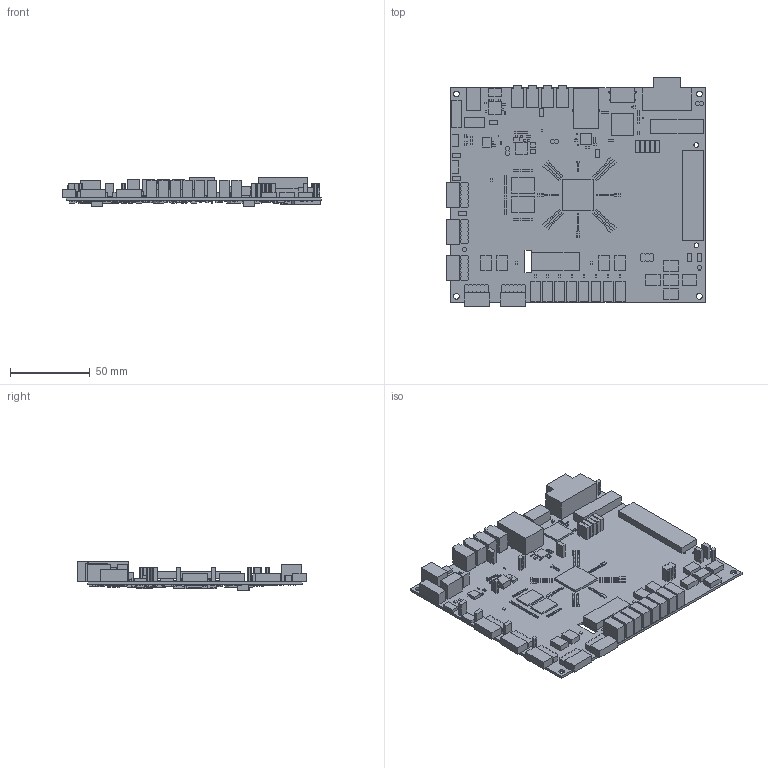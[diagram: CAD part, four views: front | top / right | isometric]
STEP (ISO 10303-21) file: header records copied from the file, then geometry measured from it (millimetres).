
FILE_DESCRIPTION(('Open CASCADE Model'),'2;1');
FILE_NAME('Open CASCADE Shape Model','2012-08-27T11:01:50',('Author'),( 'Open CASCADE'),'Open CASCADE STEP processor 6.2','Open CASCADE 6.2' ,'Unknown');
FILE_SCHEMA(('AUTOMOTIVE_DESIGN { 1 0 10303 214 1 1 1 1 }'));
Length unit declared in the file: millimetre
Products named in the file (1024): PCB; Board; C411; 373150400; Extruded; C410; C409; C408; 373150272; JP3; 373151168; R274; 373151424; D26; 373154752; R99; Q1; 373151808; D18; 373157312; C394; 373154496; C393; IC13; 373161920; R170; 373150784; R137; R108; R107; R93; R95; R85; R84; FB8; 373150656; D20; 373153216; D12; 373155648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
Assembly tree (1807 placements, depth 4):
  PCB
    Board
    C411
      373150400
        Extruded
    C410
      373150400
        Extruded
    C409
      373150400
        Extruded
    C408
      373150272
        Extruded
    JP3
      373151168
        Extruded
    R274
      373151424
        Extruded
    D26
      373154752
        Extruded
    R99
      373151424
        Extruded
    Q1
      373151808
        Extruded
    D18
      373157312
        Extruded
    C394
      373154496
        Extruded
    C393
      373154496
        Extruded
    IC13
      373161920
        Extruded
    R170
      373150784
        Extruded
    R137
      373151424
        Extruded
    R108
      373151424
        Extruded
    R107
      373150784
        Extruded
    R93
      373150784
        Extruded
    R95
      373150784
        Extruded
    R85
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Bounding box: 162.4 x 143.29 x 18.61 mm (x, y, z)
Volume: 83573 mm3; surface area: 84692.7 mm2
Topology: 866 solids, 866 shells, 5765 faces, 12099 edges, 8066 vertices
Faces by surface type: plane 5478, cylinder 287
Full cylindrical faces by diameter (mm): 0.889 x14, 0.89 x10, 1 x8, 1.02 x4, 1.067 x200, 1.27 x2, 1.3 x4, 1.6 x2, 1.8 x3, 3.048 x2, 3.175 x2, 3.25 x2, 3.658 x4
Entity records: 85756 total; most frequent: CARTESIAN_POINT 14644, DIRECTION 12403, LINE 5773, VECTOR 5773, ORIENTED_EDGE 4614, PCURVE 4614, DEFINITIONAL_REPRESENTATION 4614, AXIS2_PLACEMENT_3D 3315
